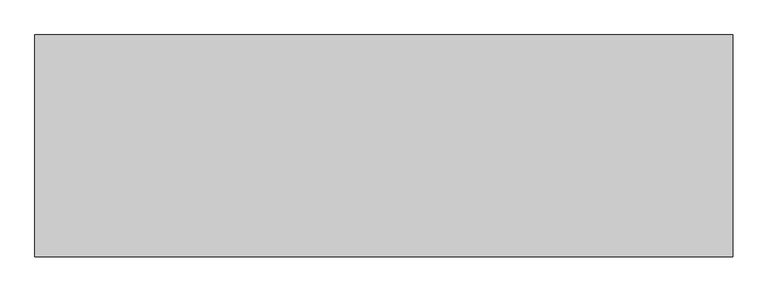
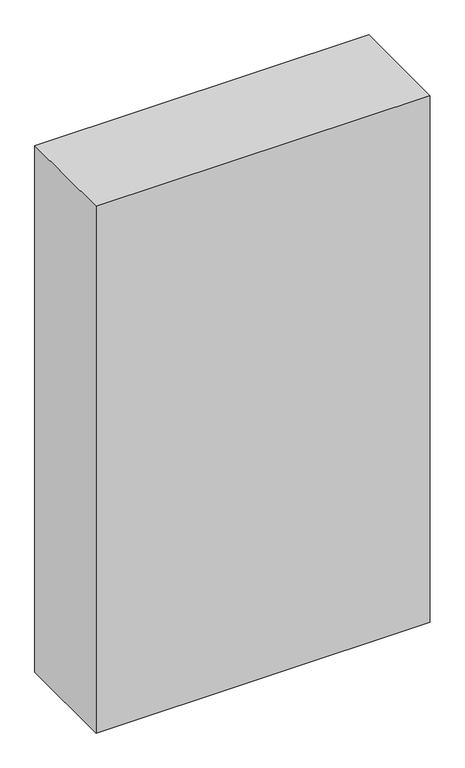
"""IFC4 building model written with IfcOpenShell, lengths in millimetres: proxy geometry."""

import ifcopenshell
import ifcopenshell.guid

model = None  # the IFC model being written
_history = None  # IfcOwnerHistory: only IFC2X3 demands one
_inside = {}  # id of a spatial element -> (the spatial element, [elements in it])
_under = {}  # id of a project, library or spatial element -> (it, [spatial elements below it])
_declared = {}  # id of a project -> (the project, [libraries it declares])
_typed = {}  # id of a type object -> (the type object, [elements of that type])
_made_of = {}  # id of a material, layer set ... -> (it, [elements and type objects made of it])


def new_model(schema):
    """Start an empty IFC model of exactly this schema.

    Asked for "IFC4X3", IfcOpenShell would pick the latest addendum, in which some entities
    have other attributes; the version numbers below select the first issue.
    IFC2X3 requires an IfcOwnerHistory on every rooted entity: one is made here for all.
    """
    global model, _history
    if schema == "IFC4X3":
        model = ifcopenshell.file(schema_version=(4, 3, 0, 0))
    else:
        model = ifcopenshell.file(schema=schema)
    _inside.clear()
    _under.clear()
    _declared.clear()
    _typed.clear()
    _made_of.clear()
    _history = None
    if model.schema == "IFC2X3":
        org = make("IfcOrganization", Name="unknown")
        user = make(
            "IfcPersonAndOrganization",
            ThePerson=make("IfcPerson", FamilyName="unknown"),
            TheOrganization=org,
        )
        app = make(
            "IfcApplication",
            ApplicationDeveloper=org,
            Version="unknown",
            ApplicationFullName="unknown",
            ApplicationIdentifier="unknown",
        )
        _history = make(
            "IfcOwnerHistory",
            OwningUser=user,
            OwningApplication=app,
            ChangeAction="ADDED",
            CreationDate=0,
        )
    return model


def make(cls, **values):
    """One entity of the class cls with the attributes given. An attribute that is None is left unset."""
    return model.create_entity(
        cls, **{name: value for name, value in values.items() if value is not None}
    )


def rooted(cls, **values):
    """An entity with a GlobalId (a new one), such as an element, a storey or a relation."""
    return make(cls, GlobalId=ifcopenshell.guid.new(), OwnerHistory=_history, **values)


def si_unit(unit_type, name, prefix=None):
    """IfcSIUnit, for example si_unit("LENGTHUNIT", "METRE", prefix="MILLI")."""
    return make("IfcSIUnit", UnitType=unit_type, Prefix=prefix, Name=name)


def assignment(units):
    """IfcUnitAssignment: the units of a project."""
    return None if units is None else make("IfcUnitAssignment", Units=units)


def point(xyz):
    """IfcCartesianPoint."""
    return None if xyz is None else make("IfcCartesianPoint", Coordinates=xyz)


def direction(xyz):
    """IfcDirection."""
    return None if xyz is None else make("IfcDirection", DirectionRatios=xyz)


def frame(location, z_axis=None, x_axis=None):
    """IfcAxis2Placement3D, a coordinate frame: its origin and axes. An axis left out is left unset."""
    return make(
        "IfcAxis2Placement3D",
        Location=point(location),
        Axis=direction(z_axis),
        RefDirection=direction(x_axis),
    )


def origin():
    """The frame at (0, 0, 0) with its axes left unset."""
    return frame((0.0, 0.0, 0.0))


def place(relative_to, where):
    """IfcLocalPlacement: puts the frame where relative to a parent placement (None: the world)."""
    return make(
        "IfcLocalPlacement", PlacementRelTo=relative_to, RelativePlacement=where
    )


def context(
    kind, dimensions, precision=None, world=None, true_north=None, identifier=None
):
    """IfcGeometricRepresentationContext, for example the 3D "Model" context."""
    return make(
        "IfcGeometricRepresentationContext",
        ContextIdentifier=identifier,
        ContextType=kind,
        CoordinateSpaceDimension=dimensions,
        Precision=precision,
        WorldCoordinateSystem=world,
        TrueNorth=true_north,
    )


def project(units=None, contexts=None):
    """IfcProject with its units and contexts."""
    return rooted(
        "IfcProject",
        Name="project",
        RepresentationContexts=contexts,
        UnitsInContext=assignment(units),
    )


def spatial(cls, under=None, at=None, **own):
    """A site, building, storey or space (cls), placed at a placement, below another one or the project."""
    s = rooted(cls, ObjectPlacement=at, **own)
    if under is not None:
        _under.setdefault(under.id(), (under, []))[1].append(s)
    return s


def polyline(points):
    """IfcPolyline through the points."""
    return make("IfcPolyline", Points=[point(p) for p in points])


def outline(outer, holes=None, kind="AREA"):
    """IfcArbitraryClosedProfileDef: a profile drawn as a closed curve; with holes, ...WithVoids."""
    if holes is None:
        return make("IfcArbitraryClosedProfileDef", ProfileType=kind, OuterCurve=outer)
    return make(
        "IfcArbitraryProfileDefWithVoids",
        ProfileType=kind,
        OuterCurve=outer,
        InnerCurves=holes,
    )


def extrude(swept, where, along, depth):
    """IfcExtrudedAreaSolid: the profile swept, set in the frame where, extruded along a direction by depth."""
    return make(
        "IfcExtrudedAreaSolid",
        SweptArea=swept,
        Position=where,
        ExtrudedDirection=direction(along),
        Depth=depth,
    )


def shape(context_of_items, identifier, shape_type, items):
    """IfcShapeRepresentation: the items that make up one representation, for example the "Body"."""
    return make(
        "IfcShapeRepresentation",
        ContextOfItems=context_of_items,
        RepresentationIdentifier=identifier,
        RepresentationType=shape_type,
        Items=items,
    )


def source(mapping_origin, context_of_items, identifier, shape_type, items):
    """IfcRepresentationMap: a shape defined once, which mapped items show again and again."""
    return make(
        "IfcRepresentationMap",
        MappingOrigin=mapping_origin,
        MappedRepresentation=shape(context_of_items, identifier, shape_type, items),
    )


def transform(
    local_origin,
    x_axis=None,
    y_axis=None,
    z_axis=None,
    scale=None,
    scale2=None,
    scale3=None,
    uniform=True,
):
    """IfcCartesianTransformationOperator3D, or its non-uniform kind. x_axis, y_axis, z_axis: its Axis1, 2, 3."""
    if uniform:
        return make(
            "IfcCartesianTransformationOperator3D",
            Axis1=direction(x_axis),
            Axis2=direction(y_axis),
            LocalOrigin=point(local_origin),
            Scale=scale,
            Axis3=direction(z_axis),
        )
    return make(
        "IfcCartesianTransformationOperator3DnonUniform",
        Axis1=direction(x_axis),
        Axis2=direction(y_axis),
        LocalOrigin=point(local_origin),
        Scale=scale,
        Axis3=direction(z_axis),
        Scale2=scale2,
        Scale3=scale3,
    )


def mapped(mapping_source, mapping_target):
    """IfcMappedItem: shows the shape of a source again, moved by a transform."""
    return make(
        "IfcMappedItem", MappingSource=mapping_source, MappingTarget=mapping_target
    )


def made_of(thing, what):
    """Note that an element or type object is made of a material, layer set ...; save() writes the relation."""
    if what is not None:
        _made_of.setdefault(what.id(), (what, []))[1].append(thing)
    return thing


def element(
    cls,
    number,
    at=None,
    inside=None,
    cuts=None,
    type_object=None,
    material=None,
    context=None,
    identifier="Body",
    shape_type=None,
    held_by="IfcProductDefinitionShape",
    body=None,
    shapes=None,
    **own,
):
    """One element of the class cls, such as IfcWall. Its Tag is "e" and its number.

    at: its placement. inside: the storey or other place that contains it. cuts: it is an
    opening in that element (IfcRelVoidsElement). A single representation is given by context,
    identifier, shape_type and body (its items); several are given by shapes. held_by: the class
    of the entity that holds the representations. save() writes the other relations.
    """
    e = rooted(cls, Tag="e%d" % number, ObjectPlacement=at, **own)
    if body is not None:
        shapes = [shape(context, identifier, shape_type, body)]
    if shapes is not None:
        e.Representation = make(held_by, Representations=shapes)
    if inside is not None:
        _inside.setdefault(inside.id(), (inside, []))[1].append(e)
    if cuts is not None:
        rooted(
            "IfcRelVoidsElement", RelatingBuildingElement=cuts, RelatedOpeningElement=e
        )
    if type_object is not None:
        _typed.setdefault(type_object.id(), (type_object, []))[1].append(e)
    return made_of(e, material)


def aggregate(whole, parts):
    """IfcRelAggregates: a whole, such as a stair, and the parts it consists of."""
    return rooted("IfcRelAggregates", RelatingObject=whole, RelatedObjects=parts)


def save(model, path):
    """Write the relations noted so far, then the file.

    IfcRelAggregates (storeys below a building ...), IfcRelContainedInSpatialStructure (elements
    in a storey), IfcRelDefinesByType, IfcRelAssociatesMaterial and IfcRelDeclares: one each for
    every whole, place, type object, material and project.
    """
    for whole, parts in _under.values():
        aggregate(whole, parts)
    for where, things in _inside.values():
        rooted(
            "IfcRelContainedInSpatialStructure",
            RelatedElements=things,
            RelatingStructure=where,
        )
    for kind, things in _typed.values():
        rooted("IfcRelDefinesByType", RelatedObjects=things, RelatingType=kind)
    for what, things in _made_of.values():
        rooted("IfcRelAssociatesMaterial", RelatedObjects=things, RelatingMaterial=what)
    for by, libraries in _declared.values():
        rooted("IfcRelDeclares", RelatingContext=by, RelatedDefinitions=libraries)
    model.write(path)


def generic_models_853e2f2e(model_context):
    return source(origin(), model_context, "Body", "SweptSolid", [
        extrude(outline(polyline([(2880.0, 119.0), (952.4295473, 119.0), (952.4295473, 730.8774567), (2880.0, 730.8774567), (2880.0, 119.0)])), frame((0.0, 0.0, -150.0), z_axis=(0.0, 0.0, 1.0), x_axis=(1.0, 0.0, 0.0)), (0.0, 0.0, 1.0), 3210.0),
    ])


if __name__ == "__main__":
    model = new_model("IFC4")
    model_context = context("Model", 3, world=origin())
    ifc_project = project(units=[si_unit("LENGTHUNIT", "METRE", prefix="MILLI")], contexts=[model_context])
    site = spatial("IfcSite", under=ifc_project)
    building = spatial("IfcBuilding", under=site)
    placement = place(None, origin())
    generic_models_shape = generic_models_853e2f2e(model_context)
    element("IfcBuildingElementProxy", 1, Name="Generic Models", at=placement, inside=building, context=model_context, shape_type="MappedRepresentation", body=[
        mapped(generic_models_shape, transform((0.0, 0.0, 0.0), x_axis=(1.0, 0.0, 0.0), y_axis=(0.0, 1.0, 0.0), z_axis=(0.0, 0.0, 1.0))),
    ])
    save(model, "model.ifc")
